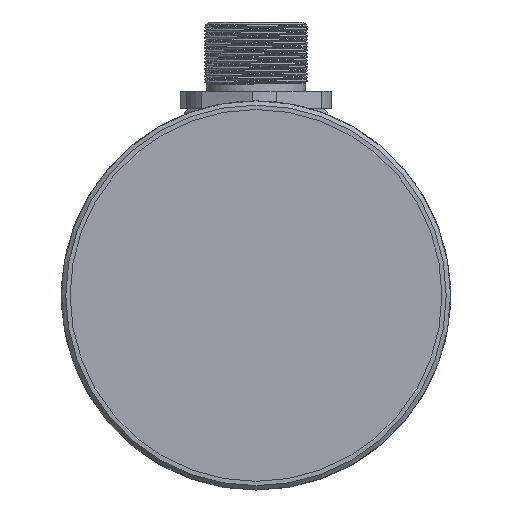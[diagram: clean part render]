
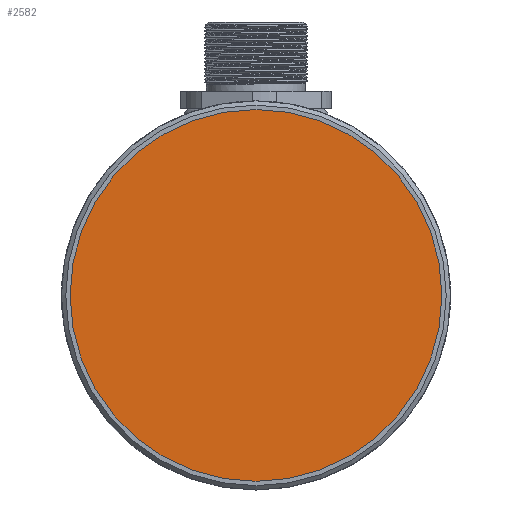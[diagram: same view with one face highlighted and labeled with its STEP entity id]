
A CAD part, left-side view. The second image highlights one B-rep face of the part: STEP entity #2582.
In plain terms, the highlighted planar face has unit normal (-1, 0, 0).
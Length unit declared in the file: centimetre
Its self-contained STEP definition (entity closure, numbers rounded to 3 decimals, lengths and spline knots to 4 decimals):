
#788=CIRCLE('',#2740,2.15);
#867=VERTEX_POINT('',#3341);
#1274=EDGE_CURVE('',#867,#867,#788,.T.);
#1592=ORIENTED_EDGE('',*,*,#1274,.T.);
#2191=EDGE_LOOP('',(#1592));
#2388=FACE_BOUND('',#2191,.T.);
#2582=ADVANCED_FACE('',(#2388),#14683,.T.);
#2740=AXIS2_PLACEMENT_3D('',#3340,#2935,#2936);
#2742=AXIS2_PLACEMENT_3D('',#3344,#2939,$);
#2935=DIRECTION('',(-1.,0.,0.));
#2936=DIRECTION('',(0.,0.,2.15));
#2939=DIRECTION('',(-1.,0.,0.));
#3340=CARTESIAN_POINT('',(0.1,0.,0.));
#3341=CARTESIAN_POINT('',(0.1,0.,2.15));
#3344=CARTESIAN_POINT('',(0.1,0.,0.));
#14683=PLANE('',#2742);
